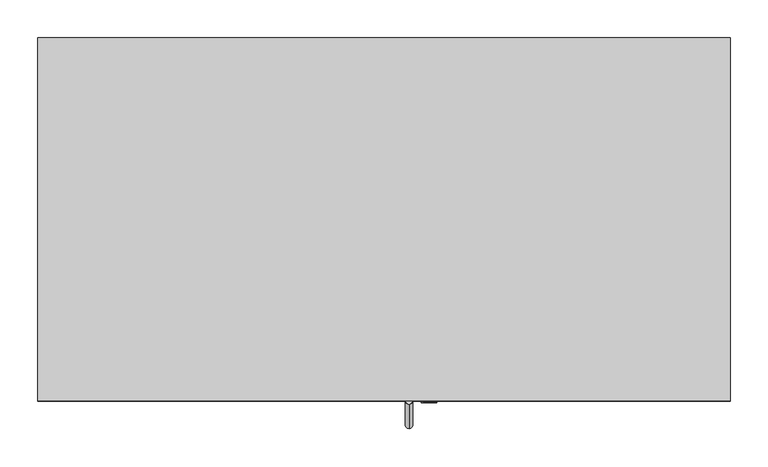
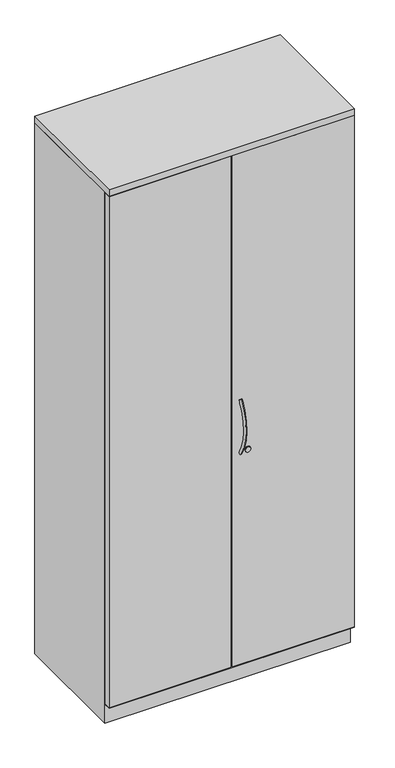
"""IFC4 building model written with IfcOpenShell, lengths in millimetres: furniture geometry, Steelcase - Universal Storage - Cabinet - Storage - 66H-84H - Proud Steel : 84H x 18D x 36W."""

from ifc_helpers import new_model, si_unit, point, frame, frame_2d, origin, place, context, project, spatial, polyline, circle_curve, ellipse_curve, trimmed, segment, composite_curve, outline, extrude, faceted_brep, source, transform, mapped, element, save
from ifc_brep_helpers import plane_surface, revolved_surface, advanced_brep


def furniture_a1fad630(model_context):
    return source(origin(), model_context, "Body", "SolidModel", [
        extrude(outline(polyline([(914.4, 0.0), (914.4, -479.552), (0.0, -479.552), (0.0, 0.0), (914.4, 0.0)])), frame((0.0, 0.0, 2095.5), z_axis=(0.0, 0.0, 1.0), x_axis=(1.0, 0.0, 0.0)), (0.0, 0.0, 1.0), 25.4),
        extrude(outline(polyline([(0.0, -479.552), (0.0, -454.1528418), (454.66, -454.1528418), (454.66, -479.552), (0.0, -479.552)])), frame((0.0, 0.0, 77.724), z_axis=(0.0, 0.0, 1.0), x_axis=(1.0, 0.0, 0.0)), (0.0, 0.0, 1.0), 2016.252),
        extrude(outline(polyline([(914.4, -454.1528418), (914.4, -479.552), (459.74, -479.552), (459.74, -454.1528418), (914.4, -454.1528418)])), frame((0.0, 0.0, 77.724), z_axis=(0.0, 0.0, 1.0), x_axis=(1.0, 0.0, 0.0)), (0.0, 0.0, 1.0), 2016.252),
        extrude(outline(composite_curve([segment(trimmed(circle_curve(frame_2d((917.702, 516.7418131)), 10.16), [point((917.702, 526.9018131))], [point((917.702, 506.5818131))], False, "CARTESIAN"), True, "CONTINUOUS"), segment(trimmed(circle_curve(frame_2d((917.702, 516.7418131)), 10.16), [point((917.702, 506.5818131))], [point((917.702, 526.9018131))], False, "CARTESIAN"), True, "CONTINUOUS")], self_intersect=False)), frame((0.0, -481.965031, 0.0), z_axis=(0.0, 1.0, 0.0), x_axis=(0.0, 0.0, 1.0)), (0.0, 0.0, 1.0), 2.413031),
        advanced_brep(
        [(490.2783765, -474.9744318, 1119.7196018), (490.2783765, -483.5741633, 1125.3900503), (490.2783765, -472.5471581, 911.9931915), (490.2783765, -481.0120418, 906.1233437)],
        [
            (0, 1, circle_curve(frame((490.2783765, -479.2742976, 1122.5548261), z_axis=(0.0, 0.5504787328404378, 0.83484918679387), x_axis=(0.0, -0.83484918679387, 0.5504787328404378)), 5.1504701)),
            (1, 0, circle_curve(frame((490.2783765, -479.2742976, 1122.5548261), z_axis=(0.0, 0.5504787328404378, 0.83484918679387), x_axis=(0.0, -0.83484918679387, 0.5504787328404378)), 5.1504701)),
            (2, 3, circle_curve(frame((490.2783765, -476.7796, 909.0582676), z_axis=(0.0, 0.5698361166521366, -0.8217583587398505), x_axis=(0.0, -0.8217583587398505, -0.5698361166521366)), 5.1504701)),
            (3, 2, circle_curve(frame((490.2783765, -476.7796, 909.0582676), z_axis=(0.0, 0.5698361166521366, -0.8217583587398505), x_axis=(0.0, -0.8217583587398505, -0.5698361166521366)), 5.1504701)),
            (3, 1, circle_curve(frame((490.2783765, -320.178461, 1017.6509992), z_axis=(-1.0, 0.0, 0.0), x_axis=(0.0, -0.83484918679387, 0.5504787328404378)), 195.7188256)),
            (0, 2, circle_curve(frame((490.2783765, -320.178461, 1017.6509992), z_axis=(1.0, 0.0, 0.0), x_axis=(0.0, -0.83484918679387, 0.5504787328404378)), 185.4178854)),
        ],
        [
            plane_surface(frame((490.2783765, -479.2742976, 1122.5548261), z_axis=(0.0, 0.5504787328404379, 0.83484918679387), x_axis=(-1.0, 0.0, 0.0))),
            plane_surface(frame((490.2783765, -476.7796, 909.0582676), z_axis=(0.0, 0.5698361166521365, -0.8217583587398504), x_axis=(-1.0, 0.0, 0.0))),
            revolved_surface(trimmed(ellipse_curve(frame((490.2783765, -479.2742976, 1122.5548261), z_axis=(0.0, 0.5504787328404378, 0.83484918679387), x_axis=(0.0, -0.83484918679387, 0.5504787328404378)), 5.1504701, 5.1504701), [point((490.2783765, -474.9744318, 1119.7196018))], [point((490.2783765, -483.5741633, 1125.3900503))], True, "CARTESIAN"), (490.2783765, -320.178461, 1017.6509992), (1.0, 0.0, 0.0)),
            revolved_surface(trimmed(ellipse_curve(frame((490.2783765, -479.2742976, 1122.5548261), z_axis=(0.0, 0.5504787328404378, 0.83484918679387), x_axis=(0.0, -0.83484918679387, 0.5504787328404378)), 5.1504701, 5.1504701), [point((490.2783765, -483.5741633, 1125.3900503))], [point((490.2783765, -474.9744318, 1119.7196018))], True, "CARTESIAN"), (490.2783765, -320.178461, 1017.6509992), (1.0, 0.0, 0.0)),
        ],
        [
            (0, [[1, 2]]),
            (1, [[3, 4]]),
            (2, [[5, -1, 6, -4]]),
            (3, [[-6, -2, -5, -3]]),
        ],
    ),
        extrude(outline(composite_curve([segment(trimmed(circle_curve(frame_2d((919.3669832, 517.0109835)), 9.7167829), [point((919.3669832, 526.7277664))], [point((919.3669832, 507.2942006))], False, "CARTESIAN"), True, "CONTINUOUS"), segment(trimmed(circle_curve(frame_2d((919.3669832, 517.0109835)), 9.7167829), [point((919.3669832, 507.2942006))], [point((919.3669832, 526.7277664))], False, "CARTESIAN"), True, "CONTINUOUS")], self_intersect=False)), frame((0.0, -480.2215275, 0.0), z_axis=(0.0, 1.0, 0.0), x_axis=(0.0, 0.0, 1.0)), (0.0, 0.0, 1.0), 0.6695275),
        faceted_brep([(914.4, 0.0, 0.0), (914.4, -452.6288432, 0.0), (0.0, -452.6288432, 0.0), (0.0, 0.0, 0.0), (0.0, 0.0, 2093.976), (914.4, 0.0, 2093.976), (0.0, -452.6288432, 76.2), (0.0, -479.552, 76.2), (0.0, -479.552, 77.724), (0.0, -452.6288432, 77.724), (0.0, -452.6288432, 2093.976), (914.4, -452.6288432, 76.2), (914.4, -452.6288432, 2093.976), (914.4, -452.6288432, 77.724), (914.4, -479.4258418, 77.724), (914.4, -479.552, 76.2), (889.0000242, -25.4000008, 2093.976), (889.0000242, -452.6288432, 2093.976), (25.3999758, -452.6288432, 2093.976), (25.3999758, -25.4000008, 2093.976), (889.0000242, -25.4000008, 77.724), (889.0000242, -452.6288432, 77.724), (25.3999758, -452.6288432, 77.724), (25.3999758, -25.4000008, 77.724), (4.6981334, -454.1528418, 77.724), (889.0000242, -454.1528418, 77.724)], [[[0, 1, 2, 3]], [[0, 3, 4, 5]], [[4, 3, 2, 6, 7, 8, 9, 10]], [[2, 1, 11, 6]], [[1, 0, 5, 12, 13, 14, 15, 11]], [[16, 17, 12, 5, 4, 10, 18, 19]], [[17, 16, 20, 21]], [[12, 17, 21, 13]], [[18, 10, 9, 22]], [[19, 18, 22, 23]], [[16, 19, 23, 20]], [[8, 24, 25, 14, 13, 21, 20, 23, 22, 9]], [[15, 7, 6, 11]], [[24, 8, 7]], [[25, 24, 7, 15]], [[14, 25, 15]]]),
    ])


if __name__ == "__main__":
    model = new_model("IFC4")
    model_context = context("Model", 3, world=origin())
    ifc_project = project(units=[si_unit("LENGTHUNIT", "METRE", prefix="MILLI")], contexts=[model_context])
    site = spatial("IfcSite", under=ifc_project)
    building = spatial("IfcBuilding", under=site)
    placement = place(None, origin())
    furniture_shape = furniture_a1fad630(model_context)
    element("IfcFurniture", 1, ObjectType="Steelcase - Universal Storage - Cabinet - Storage - 66H-84H - Proud Steel : 84H x 18D x 36W", at=placement, inside=building, context=model_context, shape_type="MappedRepresentation", body=[
        mapped(furniture_shape, transform((0.0, 0.0, 0.0), x_axis=(1.0, 0.0, 0.0), y_axis=(0.0, 1.0, 0.0), z_axis=(0.0, 0.0, 1.0))),
    ])
    save(model, "model.ifc")
